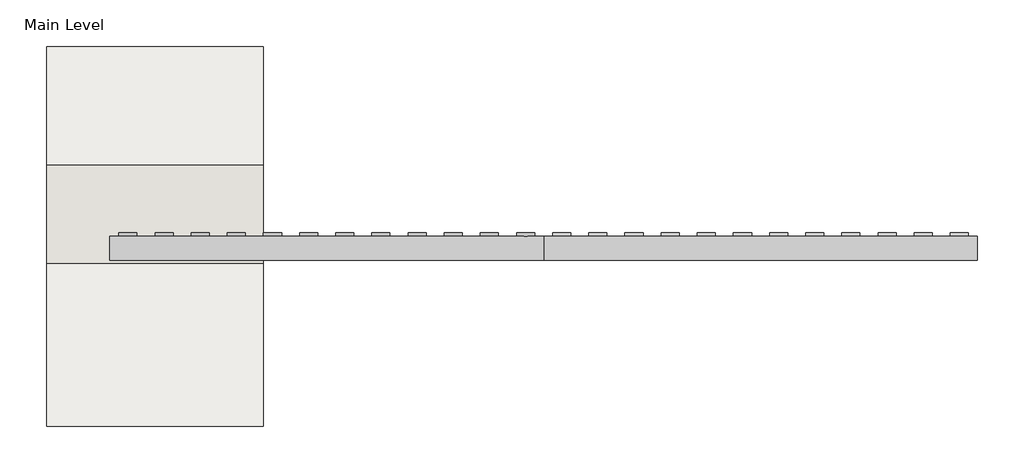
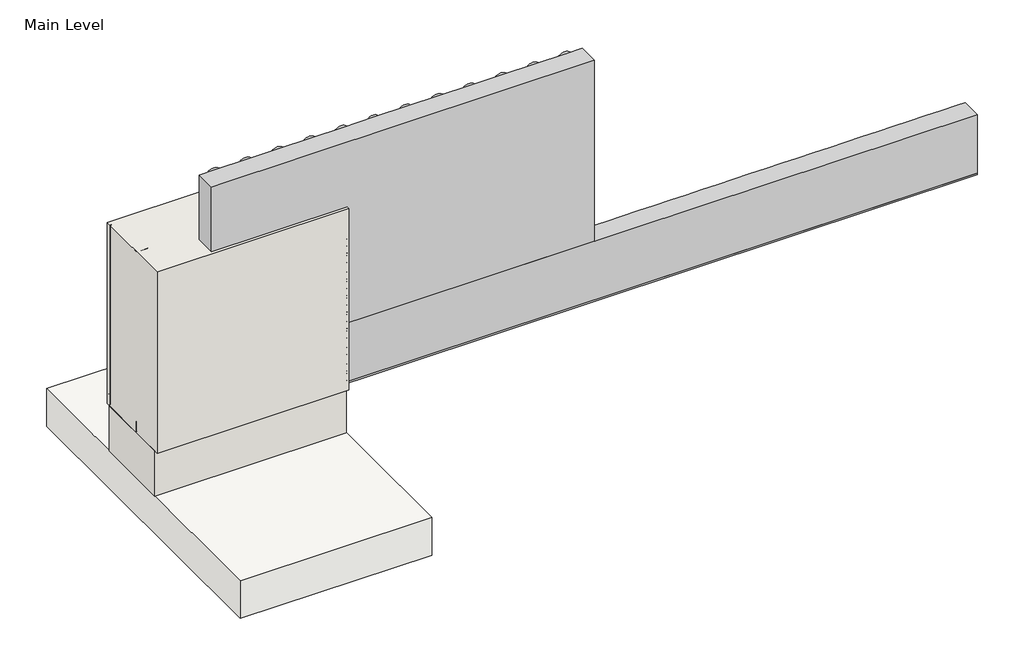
# One storey, incomplete: 18 proxies, 2 walls, 1 slab.
"""IFC4 building model written with IfcOpenShell, lengths in millimetres."""

from ifc_helpers import new_model, si_unit, frame, origin, origin_with_axes, place, context, project, spatial, polyline, outline, extrude, transform, mapped, element, save
from components import generic_models_31547c53, generic_models_0bbfdc8f, generic_models_1e1ad44f, generic_models_7dd17a53, generic_models_441de798, generic_models_9d0e7a2a, generic_models_a6b5edb7, generic_models_03ec6e0e, proxy_50213ae0, proxy_cc65e3d2, wood_blocking_c9818c35

model = new_model("IFC4")

# Units and contexts
model_context = context("Model", 3, world=origin())
ifc_project = project(units=[si_unit("LENGTHUNIT", "METRE", prefix="MILLI")], contexts=[model_context])

# Site, building, storey
site = spatial("IfcSite", under=ifc_project)
building = spatial("IfcBuilding", under=site)
storey = spatial("IfcBuildingStorey", under=building, Name="Main Level", Elevation=0.0)

# Proxies
placement = place(None, origin())
generic_models_shape = generic_models_31547c53(model_context)
element("IfcBuildingElementProxy", 1, Name="Durabond Generic Model Sealant Vent : Durabond Generic Model Sealant Vent", ObjectType="Durabond Generic Model Sealant Vent : Durabond Generic Model Sealant Vent", at=placement, inside=storey, context=model_context, shape_type="MappedRepresentation", body=[
    mapped(generic_models_shape, transform((26865.4101773, 546.8432813, 8.5594788), x_axis=(1.0, 0.0, 0.0), y_axis=(0.0, 0.08715574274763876, -0.9961946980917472), z_axis=(0.0, 0.9961946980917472, 0.08715574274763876))),
])
generic_models_2_shape = generic_models_0bbfdc8f(model_context)
generic_models_3_shape = generic_models_1e1ad44f(model_context)
generic_models_4_shape = generic_models_7dd17a53(model_context)
generic_models_5_shape = generic_models_441de798(model_context)
element("IfcBuildingElementProxy", 2, Name="CRAi Generic Model Mesh Piece Face Based : CRAi Generic Model Mesh Piece Face Based", ObjectType="CRAi Generic Model Mesh Piece Face Based : CRAi Generic Model Mesh Piece Face Based", at=placement, inside=storey, context=model_context, shape_type="MappedRepresentation", body=[
    mapped(generic_models_2_shape, transform((26933.6726773, 541.9066297, 261.6963215), x_axis=(-1.0, 0.0, 0.0), y_axis=(0.0, 0.0, -1.0), z_axis=(0.0, -1.0, 0.0))),
    mapped(generic_models_3_shape, transform((26933.6726773, 541.9066297, 261.6963215), x_axis=(-1.0, 0.0, 0.0), y_axis=(0.0, 0.0, -1.0), z_axis=(0.0, -1.0, 0.0))),
    mapped(generic_models_4_shape, transform((26933.6726773, 541.9066297, 261.6963215), x_axis=(-1.0, 0.0, 0.0), y_axis=(0.0, 0.0, -1.0), z_axis=(0.0, -1.0, 0.0))),
    mapped(generic_models_5_shape, transform((26933.6726773, 541.9066297, 261.6963215), x_axis=(-1.0, 0.0, 0.0), y_axis=(0.0, 0.0, -1.0), z_axis=(0.0, -1.0, 0.0))),
])
generic_models_6_shape = generic_models_9d0e7a2a(model_context)
element("IfcBuildingElementProxy", 3, Name="CRAi Generic Model Metal Stud Array : CRAi Generic Model Metal Stud Array", ObjectType="CRAi Generic Model Metal Stud Array : CRAi Generic Model Metal Stud Array", at=placement, inside=storey, context=model_context, shape_type="MappedRepresentation", body=[
    mapped(generic_models_6_shape, transform((26692.3726773, 726.0566297, 6.35), x_axis=(-1.0, 0.0, 0.0), y_axis=(0.0, -1.0, 0.0), z_axis=(0.0, 0.0, 1.0))),
])
generic_models_7_shape = generic_models_a6b5edb7(model_context)
element("IfcBuildingElementProxy", 4, Name="Durabond Generic Model Insulation Adhesive Flat : Durabond Generic Model Insulation Adhesive Flat", ObjectType="Durabond Generic Model Insulation Adhesive Flat : Durabond Generic Model Insulation Adhesive Flat", at=placement, inside=storey, context=model_context, shape_type="MappedRepresentation", body=[
    mapped(generic_models_7_shape, transform((26717.7726773, 627.6316297, 88.9), x_axis=(1.0, 0.0, 0.0), y_axis=(0.0, 1.0, 0.0), z_axis=(0.0, 0.0, 1.0))),
])
element("IfcBuildingElementProxy", 5, Name="Durabond Generic Model Insulation Adhesive Flat : Durabond Generic Model Insulation Adhesive Flat", ObjectType="Durabond Generic Model Insulation Adhesive Flat : Durabond Generic Model Insulation Adhesive Flat", at=placement, inside=storey, context=model_context, shape_type="MappedRepresentation", body=[
    mapped(generic_models_7_shape, transform((26819.3726773, 627.6316297, 88.9), x_axis=(1.0, 0.0, 0.0), y_axis=(0.0, 1.0, 0.0), z_axis=(0.0, 0.0, 1.0))),
])
element("IfcBuildingElementProxy", 6, Name="Durabond Generic Model Insulation Adhesive Flat : Durabond Generic Model Insulation Adhesive Flat", ObjectType="Durabond Generic Model Insulation Adhesive Flat : Durabond Generic Model Insulation Adhesive Flat", at=placement, inside=storey, context=model_context, shape_type="MappedRepresentation", body=[
    mapped(generic_models_7_shape, transform((26920.9726773, 627.6316297, 88.9), x_axis=(1.0, 0.0, 0.0), y_axis=(0.0, 1.0, 0.0), z_axis=(0.0, 0.0, 1.0))),
])
element("IfcBuildingElementProxy", 7, Name="Durabond Generic Model Insulation Adhesive Flat : Durabond Generic Model Insulation Adhesive Flat", ObjectType="Durabond Generic Model Insulation Adhesive Flat : Durabond Generic Model Insulation Adhesive Flat", at=placement, inside=storey, context=model_context, shape_type="MappedRepresentation", body=[
    mapped(generic_models_7_shape, transform((27022.5726773, 627.6316297, 88.9), x_axis=(1.0, 0.0, 0.0), y_axis=(0.0, 1.0, 0.0), z_axis=(0.0, 0.0, 1.0))),
])
generic_models_8_shape = generic_models_03ec6e0e(model_context)
element("IfcBuildingElementProxy", 8, Name="CRAi Generic Model Drywall Screw : CRAi Generic Model Drywall Screw", ObjectType="CRAi Generic Model Drywall Screw : CRAi Generic Model Drywall Screw", at=placement, inside=storey, context=model_context, shape_type="MappedRepresentation", body=[
    mapped(generic_models_8_shape, transform((26508.2226773, 633.9816297, 25.4), x_axis=(1.0, 0.0, 0.0), y_axis=(0.0, 0.0, 1.0), z_axis=(0.0, -1.0, 0.0))),
])
element("IfcBuildingElementProxy", 9, Name="CRAi Generic Model Drywall Screw : CRAi Generic Model Drywall Screw", ObjectType="CRAi Generic Model Drywall Screw : CRAi Generic Model Drywall Screw", at=placement, inside=storey, context=model_context, shape_type="MappedRepresentation", body=[
    mapped(generic_models_8_shape, transform((26508.2226773, 633.9816297, 215.9), x_axis=(1.0, 0.0, 0.0), y_axis=(0.0, 0.0, 1.0), z_axis=(0.0, -1.0, 0.0))),
])
element("IfcBuildingElementProxy", 10, Name="CRAi Generic Model Drywall Screw : CRAi Generic Model Drywall Screw", ObjectType="CRAi Generic Model Drywall Screw : CRAi Generic Model Drywall Screw", at=placement, inside=storey, context=model_context, shape_type="MappedRepresentation", body=[
    mapped(generic_models_8_shape, transform((26508.2226773, 633.9816297, 406.4), x_axis=(1.0, 0.0, 0.0), y_axis=(0.0, 0.0, 1.0), z_axis=(0.0, -1.0, 0.0))),
])
element("IfcBuildingElementProxy", 11, Name="CRAi Generic Model Drywall Screw : CRAi Generic Model Drywall Screw", ObjectType="CRAi Generic Model Drywall Screw : CRAi Generic Model Drywall Screw", at=placement, inside=storey, context=model_context, shape_type="MappedRepresentation", body=[
    mapped(generic_models_8_shape, transform((26508.2226773, 633.9816297, 596.9), x_axis=(1.0, 0.0, 0.0), y_axis=(0.0, 0.0, 1.0), z_axis=(0.0, -1.0, 0.0))),
])
element("IfcBuildingElementProxy", 12, Name="CRAi Generic Model Drywall Screw : CRAi Generic Model Drywall Screw", ObjectType="CRAi Generic Model Drywall Screw : CRAi Generic Model Drywall Screw", at=placement, inside=storey, context=model_context, shape_type="MappedRepresentation", body=[
    mapped(generic_models_8_shape, transform((26876.5226773, 633.9816297, 25.4), x_axis=(1.0, 0.0, 0.0), y_axis=(0.0, 0.0, 1.0), z_axis=(0.0, -1.0, 0.0))),
])
element("IfcBuildingElementProxy", 13, Name="CRAi Generic Model Drywall Screw : CRAi Generic Model Drywall Screw", ObjectType="CRAi Generic Model Drywall Screw : CRAi Generic Model Drywall Screw", at=placement, inside=storey, context=model_context, shape_type="MappedRepresentation", body=[
    mapped(generic_models_8_shape, transform((26876.5226773, 633.9816297, 215.9), x_axis=(1.0, 0.0, 0.0), y_axis=(0.0, 0.0, 1.0), z_axis=(0.0, -1.0, 0.0))),
])
element("IfcBuildingElementProxy", 14, Name="CRAi Generic Model Drywall Screw : CRAi Generic Model Drywall Screw", ObjectType="CRAi Generic Model Drywall Screw : CRAi Generic Model Drywall Screw", at=placement, inside=storey, context=model_context, shape_type="MappedRepresentation", body=[
    mapped(generic_models_8_shape, transform((26876.5226773, 633.9816297, 406.4), x_axis=(1.0, 0.0, 0.0), y_axis=(0.0, 0.0, 1.0), z_axis=(0.0, -1.0, 0.0))),
])
element("IfcBuildingElementProxy", 15, Name="CRAi Generic Model Drywall Screw : CRAi Generic Model Drywall Screw", ObjectType="CRAi Generic Model Drywall Screw : CRAi Generic Model Drywall Screw", at=placement, inside=storey, context=model_context, shape_type="MappedRepresentation", body=[
    mapped(generic_models_8_shape, transform((26876.5226773, 633.9816297, 596.9), x_axis=(1.0, 0.0, 0.0), y_axis=(0.0, 0.0, 1.0), z_axis=(0.0, -1.0, 0.0))),
])
proxy_shape = proxy_50213ae0(model_context)
element("IfcBuildingElementProxy", 16, Name="Durabond Generic Model Quantum Select 5-0 Insulation Board : 3\"", ObjectType="Durabond Generic Model Quantum Select 5-0 Insulation Board : 3\"", at=placement, inside=storey, context=model_context, shape_type="MappedRepresentation", body=[
    mapped(proxy_shape, transform((27276.5726773, 624.4566297, 523.392643), x_axis=(1.0, 0.0, 0.0), y_axis=(0.0, 0.0, 1.0), z_axis=(0.0, -1.0, 0.0))),
])
proxy_2_shape = proxy_cc65e3d2(model_context)
element("IfcBuildingElementProxy", 17, Name="Durabond Generic Model Quantum Select 5-0 Vent Board : 3\"", ObjectType="Durabond Generic Model Quantum Select 5-0 Vent Board : 3\"", at=placement, inside=storey, context=model_context, shape_type="MappedRepresentation", body=[
    mapped(proxy_2_shape, transform((27886.1726773, 624.4566297, 116.992643), x_axis=(1.0, 0.0, 0.0), y_axis=(0.0, 0.0, 1.0), z_axis=(0.0, -1.0, 0.0))),
])
wood_blocking_shape = wood_blocking_c9818c35(model_context)
element("IfcBuildingElementProxy", 18, Name="CRAi Generic Model Line Based Metal Framing Track : Wood Blocking", ObjectType="CRAi Generic Model Line Based Metal Framing Track : Wood Blocking", at=placement, inside=storey, context=model_context, shape_type="MappedRepresentation", body=[
    mapped(wood_blocking_shape, transform((26489.1726773, 653.0316297, 0.0), x_axis=(1.0, 0.0, 0.0), y_axis=(0.0, 1.0, 0.0), z_axis=(0.0, 0.0, 1.0))),
])

# Slab
element("IfcSlab", 19, ObjectType="CRAi Concrete Floor - 5\"", at=placement, inside=storey, context=model_context, shape_type="SweptSolid", body=[
    extrude(outline(polyline([(27098.7726773, 81.5316297), (26489.1726773, 81.5316297), (26489.1726773, 1148.3316297), (27098.7726773, 1148.3316297), (27098.7726773, 81.5316297)])), frame((0.0, 0.0, -279.4), z_axis=(0.0, 0.0, 1.0), x_axis=(1.0, 0.0, 0.0)), (0.0, 0.0, 1.0), 127.0),
])

# Walls
element("IfcWall", 20, ObjectType="189mm (7.5”) EIFS Field Applied on Mtl. Stud Layer - 50mm Grooved Insulation Board Metal Stud Wall", at=placement, inside=storey, context=model_context, shape_type="SweptSolid", body=[
    extrude(outline(polyline([(27098.7726773, 538.7316297), (26489.1726773, 538.7316297), (26489.1726773, 814.9566297), (27098.7726773, 814.9566297), (27098.7726773, 538.7316297)])), origin_with_axes(), (0.0, 0.0, 1.0), 609.6),
])
element("IfcWall", 21, ObjectType="Durabond 10\" Concrete Wall", at=placement, inside=storey, context=model_context, shape_type="SweptSolid", body=[
    extrude(outline(polyline([(27098.7726773, 551.4316297), (26489.1726773, 551.4316297), (26489.1726773, 802.2566297), (27098.7726773, 802.2566297), (27098.7726773, 551.4316297)])), frame((0.0, 0.0, -152.4), z_axis=(0.0, 0.0, 1.0), x_axis=(1.0, 0.0, 0.0)), (0.0, 0.0, 1.0), 152.4),
])

save(model, "model.ifc")
